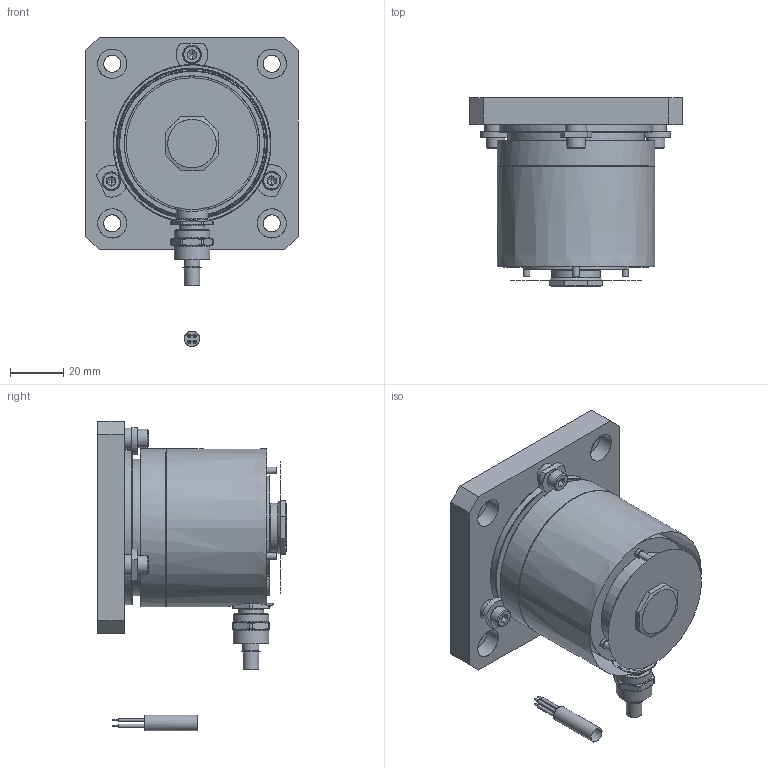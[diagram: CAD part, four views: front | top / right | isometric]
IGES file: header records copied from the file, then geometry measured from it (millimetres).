
Start section: SolidWorks IGES file using analytic representation for surfaces
Global section: file name: R:\20_MW\N702-INOX HART\Entwicklung\Konstruktion\STEP & IGES\Kinax N702-Inox Hart.IGS; native system: SolidWorks 2015; preprocessor: SolidWorks 2015; author: stu; date: 160414.140005; units: millimetre
Bounding box: 80 x 71 x 116.45 mm (x, y, z)
Surface area: 54470.3 mm2 (no closed solid volume)
Topology: 0 solids, 0 shells, 360 faces, 6485 edges, 6351 vertices
Faces by surface type: bspline 206, revolution 154
